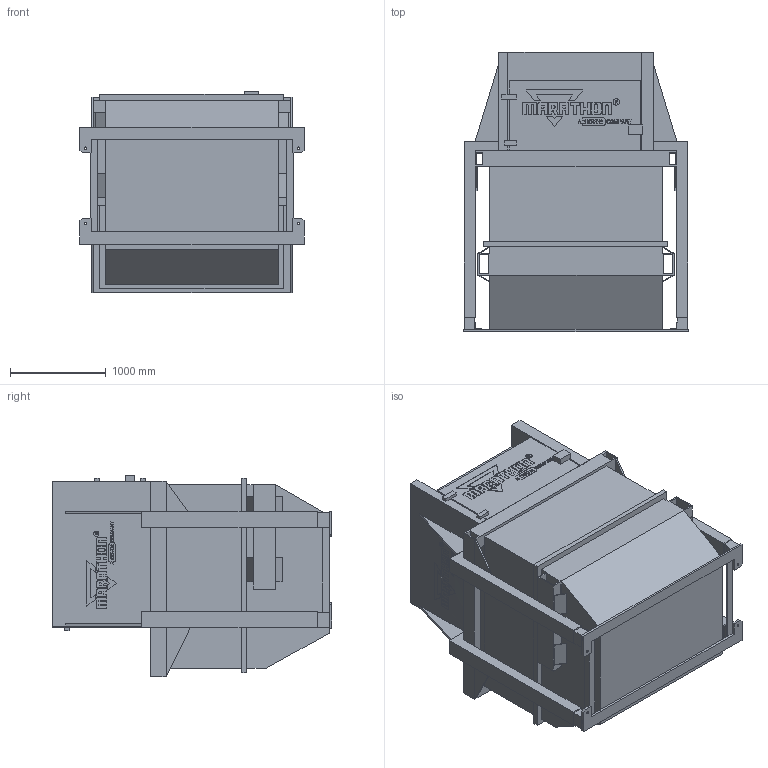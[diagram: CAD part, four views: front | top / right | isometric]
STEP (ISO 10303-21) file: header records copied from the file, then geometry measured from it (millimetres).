
FILE_DESCRIPTION((''),'2;1');
FILE_NAME('75212_ASM','2018-10-23T19:24:11',('10048000'),(''),'CREO PARAMETRIC BY PTC INC, 2017110','CREO PARAMETRIC BY PTC INC, 2017110','');
FILE_SCHEMA(('CONFIG_CONTROL_DESIGN'));
Products named in the file (3): STRUCTURE_75212; CONTAINER_75212; 75212_ASM
Assembly tree (2 placements, depth 2):
  75212_ASM
    STRUCTURE_75212
    CONTAINER_75212
Bounding box: 2339.97 x 2921.19 x 2106.61 mm (x, y, z)
Volume: 3139875912.5 mm3; surface area: 65204133.3 mm2
Topology: 2 solids, 2 shells, 2718 faces, 7518 edges, 4985 vertices
Faces by surface type: plane 2525, cylinder 193
Entity records: 85294 total; most frequent: CARTESIAN_POINT 15226, ORIENTED_EDGE 15036, DIRECTION 13350, EDGE_CURVE 7518, VECTOR 7132, LINE 7132, VERTEX_POINT 4985, AXIS2_PLACEMENT_3D 3109
